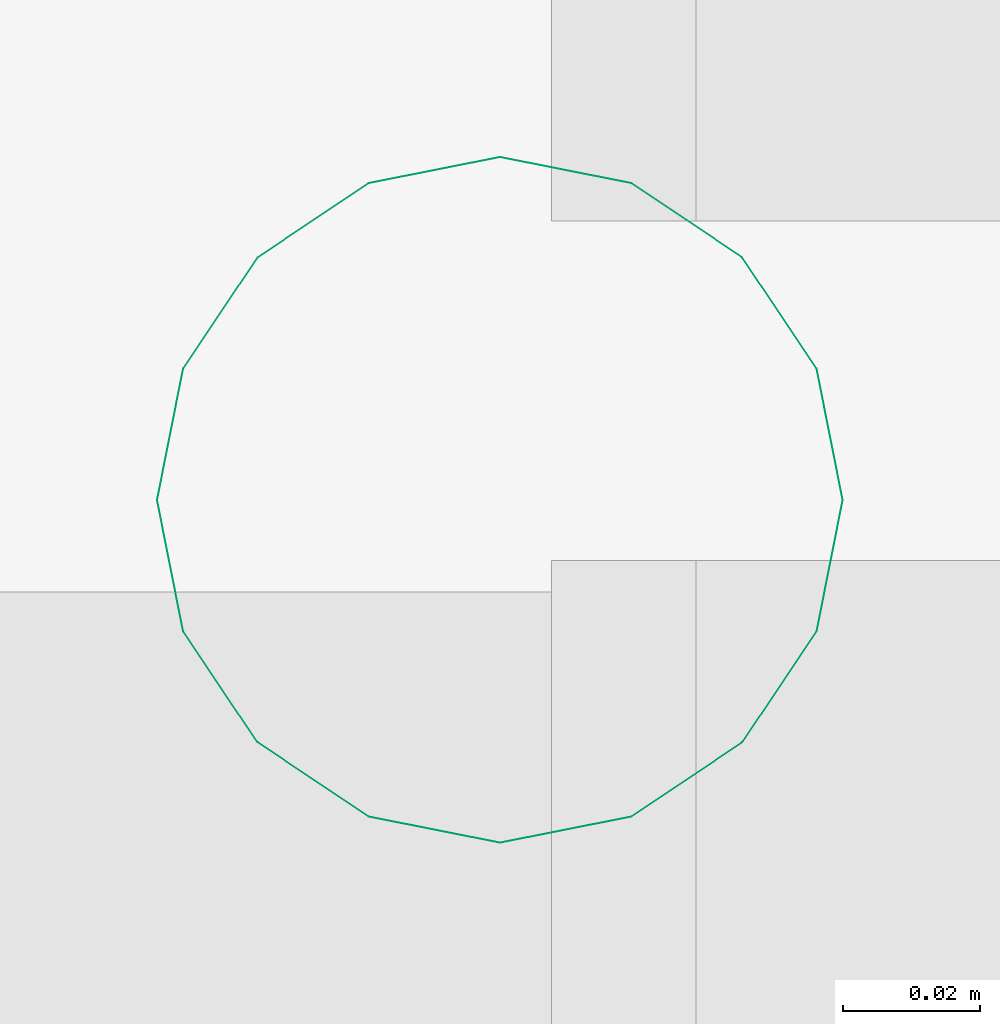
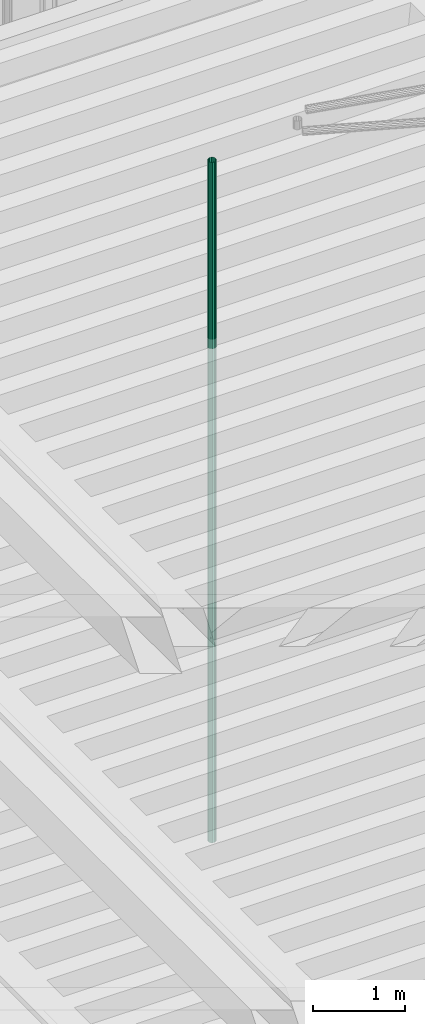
# One storey, part 64 of 108: 1 flow segment.
"""IFC2X3 building model written with IfcOpenShell, lengths in metres."""

from ifc_helpers import new_model, entity, si_unit, converted_unit, derived_unit, money_unit, direction, frame, origin_with_axes, place, context, subcontext, project, spatial, faceted_brep, material, type_object, element, save


model = new_model("IFC2X3")

# Units and contexts
model_context = context("Model", 3, precision=1e-05, world=origin_with_axes(), true_north=direction((0.0, 1.0)))
body_context = subcontext(model_context, "Body", "Model", "MODEL_VIEW", scale=1.0)
ifc_project = project(units=[si_unit("LENGTHUNIT", "METRE"), si_unit("AREAUNIT", "SQUARE_METRE"), si_unit("VOLUMEUNIT", "CUBIC_METRE"), si_unit("ABSORBEDDOSEUNIT", "GRAY"), si_unit("AMOUNTOFSUBSTANCEUNIT", "MOLE"), si_unit("DOSEEQUIVALENTUNIT", "SIEVERT"), si_unit("ELECTRICCAPACITANCEUNIT", "FARAD"), si_unit("ELECTRICCHARGEUNIT", "COULOMB"), si_unit("ELECTRICCONDUCTANCEUNIT", "SIEMENS"), si_unit("ELECTRICCURRENTUNIT", "AMPERE"), si_unit("ELECTRICRESISTANCEUNIT", "OHM"), si_unit("ELECTRICVOLTAGEUNIT", "VOLT"), si_unit("ENERGYUNIT", "JOULE"), si_unit("FORCEUNIT", "NEWTON"), si_unit("FREQUENCYUNIT", "HERTZ"), si_unit("ILLUMINANCEUNIT", "LUX"), si_unit("INDUCTANCEUNIT", "HENRY"), si_unit("LUMINOUSFLUXUNIT", "LUMEN"), si_unit("LUMINOUSINTENSITYUNIT", "CANDELA"), si_unit("MAGNETICFLUXDENSITYUNIT", "TESLA"), si_unit("MAGNETICFLUXUNIT", "WEBER"), si_unit("MASSUNIT", "GRAM"), converted_unit("PLANEANGLEUNIT", "degree", entity("IfcReal", 0.0174532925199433), si_unit("PLANEANGLEUNIT", "RADIAN"), dimensions=[0, 0, 0, 0, 0, 0, 0]), si_unit("POWERUNIT", "WATT"), si_unit("PRESSUREUNIT", "PASCAL"), si_unit("RADIOACTIVITYUNIT", "BECQUEREL"), si_unit("SOLIDANGLEUNIT", "STERADIAN"), si_unit("THERMODYNAMICTEMPERATUREUNIT", "KELVIN"), si_unit("TIMEUNIT", "SECOND"), derived_unit("ACCELERATIONUNIT", [(si_unit("LENGTHUNIT", "METRE"), 1), (si_unit("TIMEUNIT", "SECOND"), -2)]), derived_unit("ANGULARVELOCITYUNIT", [(converted_unit("PLANEANGLEUNIT", "degree", entity("IfcReal", 0.0174532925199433), si_unit("PLANEANGLEUNIT", "RADIAN"), dimensions=[0, 0, 0, 0, 0, 0, 0]), 1), (si_unit("TIMEUNIT", "SECOND"), -1)]), derived_unit("CURVATUREUNIT", [(converted_unit("PLANEANGLEUNIT", "degree", entity("IfcReal", 0.0174532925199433), si_unit("PLANEANGLEUNIT", "RADIAN"), dimensions=[0, 0, 0, 0, 0, 0, 0]), 1), (si_unit("LENGTHUNIT", "METRE"), -1)]), derived_unit("DYNAMICVISCOSITYUNIT", [(si_unit("PRESSUREUNIT", "PASCAL"), 1), (si_unit("TIMEUNIT", "SECOND"), 1)]), derived_unit("HEATFLUXDENSITYUNIT", [(si_unit("POWERUNIT", "WATT"), 1), (si_unit("LENGTHUNIT", "METRE"), -2)]), derived_unit("HEATINGVALUEUNIT", [(si_unit("ENERGYUNIT", "JOULE"), 1), (si_unit("MASSUNIT", "GRAM"), -1)]), derived_unit("INTEGERCOUNTRATEUNIT", [(si_unit("TIMEUNIT", "SECOND"), -1)]), derived_unit("IONCONCENTRATIONUNIT", [(si_unit("MASSUNIT", "GRAM"), 1), (si_unit("VOLUMEUNIT", "CUBIC_METRE"), -1)]), derived_unit("ISOTHERMALMOISTURECAPACITYUNIT", [(si_unit("VOLUMEUNIT", "CUBIC_METRE"), 1), (si_unit("MASSUNIT", "GRAM"), -1)]), derived_unit("KINEMATICVISCOSITYUNIT", [(si_unit("AREAUNIT", "SQUARE_METRE"), 1), (si_unit("TIMEUNIT", "SECOND"), -1)]), derived_unit("LINEARFORCEUNIT", [(si_unit("FORCEUNIT", "NEWTON"), 1), (si_unit("LENGTHUNIT", "METRE"), -1)]), derived_unit("LINEARMOMENTUNIT", [(si_unit("FORCEUNIT", "NEWTON"), 1), (si_unit("LENGTHUNIT", "METRE"), -1)]), derived_unit("LINEARSTIFFNESSUNIT", [(si_unit("FORCEUNIT", "NEWTON"), 1), (si_unit("LENGTHUNIT", "METRE"), -1)]), derived_unit("LINEARVELOCITYUNIT", [(si_unit("LENGTHUNIT", "METRE"), 1), (si_unit("TIMEUNIT", "SECOND"), -1)]), derived_unit("LUMINOUSINTENSITYDISTRIBUTIONUNIT", [(si_unit("LUMINOUSINTENSITYUNIT", "CANDELA"), 1), (si_unit("LUMINOUSFLUXUNIT", "LUMEN"), -1)]), derived_unit("MASSDENSITYUNIT", [(si_unit("MASSUNIT", "GRAM"), 1), (si_unit("VOLUMEUNIT", "CUBIC_METRE"), -1)]), derived_unit("MASSFLOWRATEUNIT", [(si_unit("MASSUNIT", "GRAM"), 1), (si_unit("TIMEUNIT", "SECOND"), -1)]), derived_unit("MASSPERLENGTHUNIT", [(si_unit("MASSUNIT", "GRAM"), 1), (si_unit("LENGTHUNIT", "METRE"), -1)]), derived_unit("MODULUSOFELASTICITYUNIT", [(si_unit("FORCEUNIT", "NEWTON"), 1), (si_unit("AREAUNIT", "SQUARE_METRE"), -1)]), derived_unit("MODULUSOFLINEARSUBGRADEREACTIONUNIT", [(si_unit("FORCEUNIT", "NEWTON"), 1), (si_unit("LENGTHUNIT", "METRE"), -2)]), derived_unit("MODULUSOFROTATIONALSUBGRADEREACTIONUNIT", [(si_unit("FORCEUNIT", "NEWTON"), 1), (si_unit("LENGTHUNIT", "METRE"), 1)]), derived_unit("MODULUSOFSUBGRADEREACTIONUNIT", [(si_unit("FORCEUNIT", "NEWTON"), 1), (si_unit("VOLUMEUNIT", "CUBIC_METRE"), -1)]), derived_unit("MOISTUREDIFFUSIVITYUNIT", [(si_unit("VOLUMEUNIT", "CUBIC_METRE"), 1), (si_unit("TIMEUNIT", "SECOND"), -1)]), derived_unit("MOLECULARWEIGHTUNIT", [(si_unit("MASSUNIT", "GRAM"), 1), (si_unit("AMOUNTOFSUBSTANCEUNIT", "MOLE"), -1)]), derived_unit("PLANARFORCEUNIT", [(si_unit("FORCEUNIT", "NEWTON"), 1), (si_unit("LENGTHUNIT", "METRE"), -2)]), derived_unit("ROTATIONALFREQUENCYUNIT", [(si_unit("TIMEUNIT", "SECOND"), -1)]), derived_unit("ROTATIONALMASSUNIT", [(si_unit("MASSUNIT", "GRAM"), 1), (si_unit("LENGTHUNIT", "METRE"), 2)]), derived_unit("ROTATIONALSTIFFNESSUNIT", [(si_unit("FORCEUNIT", "NEWTON"), 1), (si_unit("LENGTHUNIT", "METRE"), 1), (converted_unit("PLANEANGLEUNIT", "degree", entity("IfcReal", 0.0174532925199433), si_unit("PLANEANGLEUNIT", "RADIAN"), dimensions=[0, 0, 0, 0, 0, 0, 0]), -1)]), derived_unit("SECTIONAREAINTEGRALUNIT", [(si_unit("LENGTHUNIT", "METRE"), 5)]), derived_unit("SECTIONMODULUSUNIT", [(si_unit("LENGTHUNIT", "METRE"), 3)]), derived_unit("SHEARMODULUSUNIT", [(si_unit("FORCEUNIT", "NEWTON"), 1), (si_unit("AREAUNIT", "SQUARE_METRE"), -1)]), derived_unit("SOUNDPOWERUNIT", [(si_unit("ENERGYUNIT", "JOULE"), 1), (si_unit("TIMEUNIT", "SECOND"), -1)]), derived_unit("SPECIFICHEATCAPACITYUNIT", [(si_unit("FORCEUNIT", "NEWTON"), 1), (si_unit("MASSUNIT", "GRAM"), -1), (si_unit("THERMODYNAMICTEMPERATUREUNIT", "KELVIN"), -1)]), derived_unit("TEMPERATUREGRADIENTUNIT", [(si_unit("THERMODYNAMICTEMPERATUREUNIT", "KELVIN"), 1), (si_unit("LENGTHUNIT", "METRE"), -1)]), derived_unit("THERMALADMITTANCEUNIT", [(si_unit("POWERUNIT", "WATT"), 1), (si_unit("AREAUNIT", "SQUARE_METRE"), -1), (si_unit("THERMODYNAMICTEMPERATUREUNIT", "KELVIN"), -1)]), derived_unit("THERMALCONDUCTANCEUNIT", [(si_unit("POWERUNIT", "WATT"), 1), (si_unit("LENGTHUNIT", "METRE"), -1), (si_unit("THERMODYNAMICTEMPERATUREUNIT", "KELVIN"), -1)]), derived_unit("THERMALEXPANSIONCOEFFICIENTUNIT", [(si_unit("THERMODYNAMICTEMPERATUREUNIT", "KELVIN"), -1)]), derived_unit("THERMALRESISTANCEUNIT", [(si_unit("AREAUNIT", "SQUARE_METRE"), 1), (si_unit("POWERUNIT", "WATT"), -1)]), derived_unit("THERMALTRANSMITTANCEUNIT", [(si_unit("POWERUNIT", "WATT"), 1), (si_unit("AREAUNIT", "SQUARE_METRE"), -1), (si_unit("THERMODYNAMICTEMPERATUREUNIT", "KELVIN"), -1)]), derived_unit("TORQUEUNIT", [(si_unit("FORCEUNIT", "NEWTON"), 1), (si_unit("LENGTHUNIT", "METRE"), 1)]), derived_unit("VAPORPERMEABILITYUNIT", [(si_unit("MASSUNIT", "GRAM"), 1), (si_unit("TIMEUNIT", "SECOND"), -1)]), derived_unit("VOLUMETRICFLOWRATEUNIT", [(si_unit("VOLUMEUNIT", "CUBIC_METRE"), 1), (si_unit("TIMEUNIT", "SECOND"), -1)]), derived_unit("WARPINGCONSTANTUNIT", [(si_unit("LENGTHUNIT", "METRE"), 6)]), derived_unit("WARPINGMOMENTUNIT", [(si_unit("FORCEUNIT", "NEWTON"), 1), (si_unit("LENGTHUNIT", "METRE"), 2)]), money_unit("GBP")], contexts=[model_context])

# Site, building, storey
site_placement = place(None, origin_with_axes())
site = spatial("IfcSite", under=ifc_project, at=site_placement, Name="Site", CompositionType="ELEMENT")
building_placement = place(site_placement, origin_with_axes())
building = spatial("IfcBuilding", under=site, at=building_placement, Name="Building01", CompositionType="ELEMENT")
storey_placement = place(building_placement, origin_with_axes())
storey = spatial("IfcBuildingStorey", under=building, at=storey_placement, Name="GF", CompositionType="ELEMENT", Elevation=0.0)

# Flow segment
ifc_material = material(Name="M_BSUK_ColdWater")
pipe_segment_type = type_object("IfcPipeSegmentType", Name="M-BmpStraightpipe-DefaultPipe", PredefinedType="RIGIDSEGMENT")
flow_segment_placement = place(storey_placement, frame((21.046648, 8.483388, 5.417218), z_axis=(1.0, 0.0, 0.0), x_axis=(0.0, 0.0, 1.0)))
element("IfcFlowSegment", 1, at=flow_segment_placement, inside=storey, type_object=pipe_segment_type, material=ifc_material, Name="M-BmpStraightpipe-DefaultPipe", ObjectType="M-BmpStraightpipe-DefaultPipe", context=body_context, shape_type="Brep", body=[
    faceted_brep([(9.008093, 0.0, -0.05), (0.0, 0.0, -0.05), (0.0, 0.019134, -0.046194), (9.008093, 0.019134, -0.046194), (0.0, 0.035355, -0.035355), (9.008093, 0.035355, -0.035355), (0.0, 0.046194, -0.019134), (9.008093, 0.046194, -0.019134), (0.0, 0.05, 0.0), (9.008093, 0.05, 0.0), (0.0, 0.046194, 0.019134), (9.008093, 0.046194, 0.019134), (0.0, 0.035355, 0.035355), (9.008093, 0.035355, 0.035355), (0.0, 0.019134, 0.046194), (9.008093, 0.019134, 0.046194), (0.0, 0.0, 0.05), (9.008093, 0.0, 0.05), (0.0, -0.019134, 0.046194), (9.008093, -0.019134, 0.046194), (0.0, -0.035355, 0.035355), (9.008093, -0.035355, 0.035355), (0.0, -0.046194, 0.019134), (9.008093, -0.046194, 0.019134), (0.0, -0.05, 0.0), (9.008093, -0.05, 0.0), (0.0, -0.046194, -0.019134), (9.008093, -0.046194, -0.019134), (0.0, -0.035355, -0.035355), (9.008093, -0.035355, -0.035355), (0.0, -0.019134, -0.046194), (9.008093, -0.019134, -0.046194)], [[[0, 1, 2, 3]], [[3, 2, 4, 5]], [[5, 4, 6, 7]], [[7, 6, 8, 9]], [[9, 8, 10, 11]], [[11, 10, 12, 13]], [[13, 12, 14, 15]], [[15, 14, 16, 17]], [[17, 16, 18, 19]], [[19, 18, 20, 21]], [[21, 20, 22, 23]], [[23, 22, 24, 25]], [[25, 24, 26, 27]], [[27, 26, 28, 29]], [[29, 28, 30, 31]], [[31, 30, 1, 0]]]),
])

save(model, "model.ifc")
